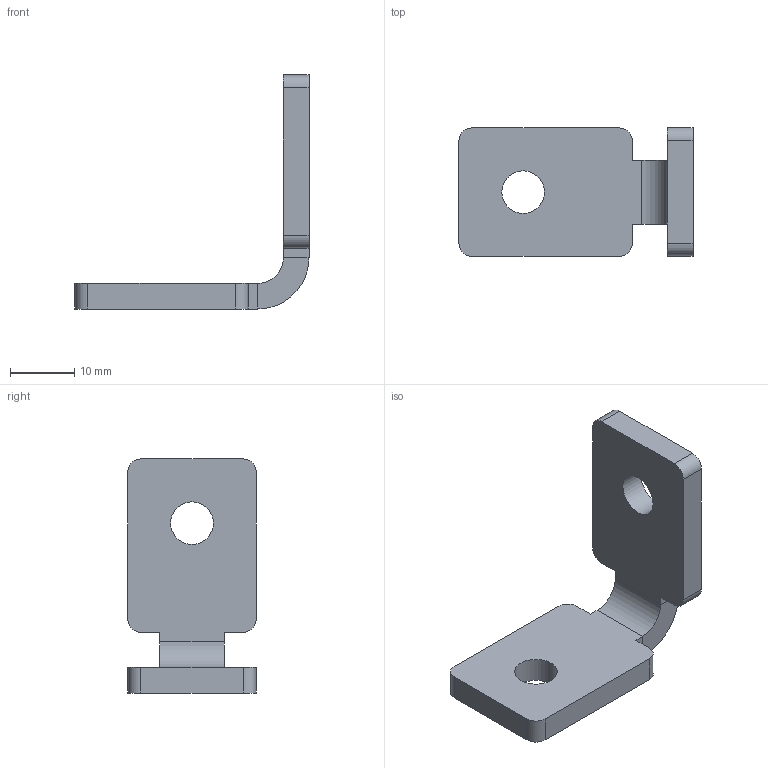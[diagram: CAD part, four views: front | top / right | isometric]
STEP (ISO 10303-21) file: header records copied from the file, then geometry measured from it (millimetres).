
FILE_DESCRIPTION(/* description */ ('ANGEL CONNETION STRIP'),/* implementation_level */ '2;1');
FILE_NAME(/* name */ 'X:\Carryline\Katalog\STEP-Carryline Standarddelar\Serie 100\100-7029.stp',/* time_stamp */ '2014-07-08T13:03:41+02:00',/* author */ ('mathias'),/* organization */ ('CARRYLINE'),/* preprocessor_version */ 'ST-DEVELOPER v15.2',/* originating_system */ 'Autodesk Inventor 2014',/* authorisation */ '');
FILE_SCHEMA (('AUTOMOTIVE_DESIGN { 1 0 10303 214 3 1 1 }'));
Length unit declared in the file: millimetre
Products named in the file (1): 100-7029
Bounding box: 36.48 x 20 x 36.48 mm (x, y, z)
Volume: 4510 mm3; surface area: 3165.6 mm2
Topology: 1 solids, 1 shells, 32 faces, 84 edges, 54 vertices
Faces by surface type: plane 20, cylinder 12
Full cylindrical faces by diameter (mm): 6.647 x2
Entity records: 985 total; most frequent: DIRECTION 170, CARTESIAN_POINT 165, ORIENTED_EDGE 160, EDGE_CURVE 80, AXIS2_PLACEMENT_3D 57, LINE 56, VECTOR 56, VERTEX_POINT 52
